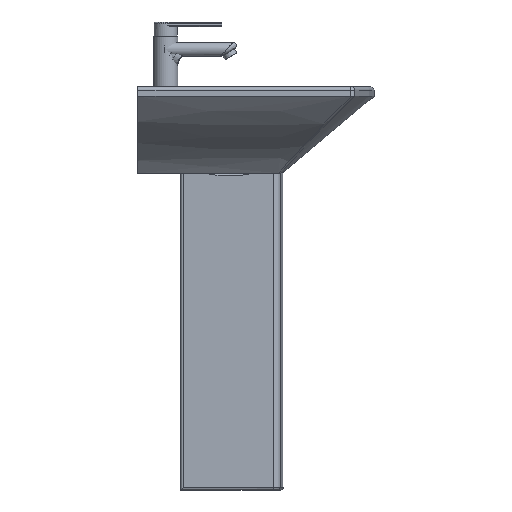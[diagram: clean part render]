
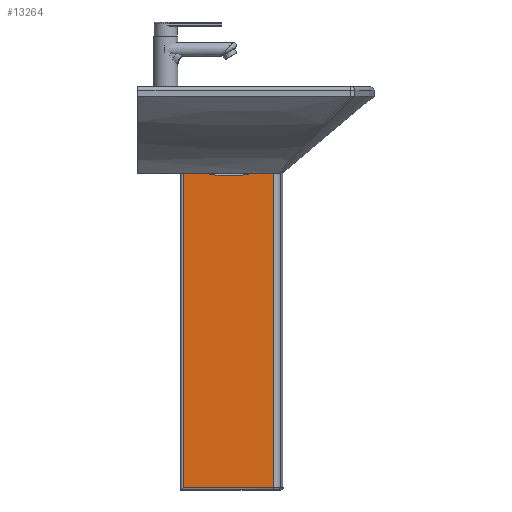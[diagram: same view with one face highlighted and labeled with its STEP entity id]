
A CAD part, left-side view. The second image highlights one B-rep face of the part: STEP entity #13264.
In plain terms, the highlighted planar face has unit normal (-1, 0, 0).
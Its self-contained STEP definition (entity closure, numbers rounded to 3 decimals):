
#12836=CARTESIAN_POINT('',(-28.117,-175.21,5.0));
#12837=VERTEX_POINT('',#12836);
#12913=CARTESIAN_POINT('',(-28.117,17.55,5.0));
#12914=VERTEX_POINT('',#12913);
#12915=CARTESIAN_POINT('',(-28.117,-175.21,5.0));
#12916=DIRECTION('',(0.0,1.0,0.0));
#12917=VECTOR('',#12916,192.76);
#12918=LINE('',#12915,#12917);
#12919=EDGE_CURVE('',#12837,#12914,#12918,.T.);
#12968=CARTESIAN_POINT('',(-28.117,17.55,680.0));
#12969=VERTEX_POINT('',#12968);
#12970=CARTESIAN_POINT('',(-28.117,17.55,5.0));
#12971=DIRECTION('',(0.0,0.0,1.0));
#12972=VECTOR('',#12971,675.0);
#12973=LINE('',#12970,#12972);
#12974=EDGE_CURVE('',#12914,#12969,#12973,.T.);
#13032=CARTESIAN_POINT('',(-28.117,-16.078,680.0));
#13033=VERTEX_POINT('',#13032);
#13034=CARTESIAN_POINT('',(-28.117,17.55,680.0));
#13035=DIRECTION('',(0.0,-1.0,0.0));
#13036=VECTOR('',#13035,33.627);
#13037=LINE('',#13034,#13036);
#13038=EDGE_CURVE('',#12969,#13033,#13037,.T.);
#13095=CARTESIAN_POINT('',(-28.117,-146.793,680.0));
#13096=VERTEX_POINT('',#13095);
#13097=CARTESIAN_POINT('',(-28.117,-81.435,923.885));
#13098=DIRECTION('',(-1.0,0.0,0.0));
#13099=DIRECTION('',(0.0,0.0,-1.0));
#13100=AXIS2_PLACEMENT_3D('',#13097,#13098,#13099);
#13101=CIRCLE('',#13100,252.491);
#13102=EDGE_CURVE('',#13033,#13096,#13101,.T.);
#13127=CARTESIAN_POINT('',(-28.117,-175.21,680.0));
#13128=VERTEX_POINT('',#13127);
#13145=CARTESIAN_POINT('',(-28.117,-146.793,680.0));
#13146=DIRECTION('',(0.0,-1.0,0.0));
#13147=VECTOR('',#13146,28.418);
#13148=LINE('',#13145,#13147);
#13149=EDGE_CURVE('',#13096,#13128,#13148,.T.);
#13246=CARTESIAN_POINT('',(-28.117,-187.078,0.0));
#13247=DIRECTION('',(-1.0,0.0,0.0));
#13248=DIRECTION('',(0.0,0.0,1.0));
#13249=AXIS2_PLACEMENT_3D('',#13246,#13247,#13248);
#13250=PLANE('',#13249);
#13251=ORIENTED_EDGE('',*,*,#13149,.F.);
#13252=ORIENTED_EDGE('',*,*,#13102,.F.);
#13253=ORIENTED_EDGE('',*,*,#13038,.F.);
#13254=ORIENTED_EDGE('',*,*,#12974,.F.);
#13255=ORIENTED_EDGE('',*,*,#12919,.F.);
#13256=CARTESIAN_POINT('',(-28.117,-175.21,680.0));
#13257=DIRECTION('',(0.0,0.0,-1.0));
#13258=VECTOR('',#13257,675.0);
#13259=LINE('',#13256,#13258);
#13260=EDGE_CURVE('',#13128,#12837,#13259,.T.);
#13261=ORIENTED_EDGE('',*,*,#13260,.F.);
#13262=EDGE_LOOP('',(#13251,#13252,#13253,#13254,#13255,#13261));
#13263=FACE_OUTER_BOUND('',#13262,.T.);
#13264=ADVANCED_FACE('',(#13263),#13250,.T.);
